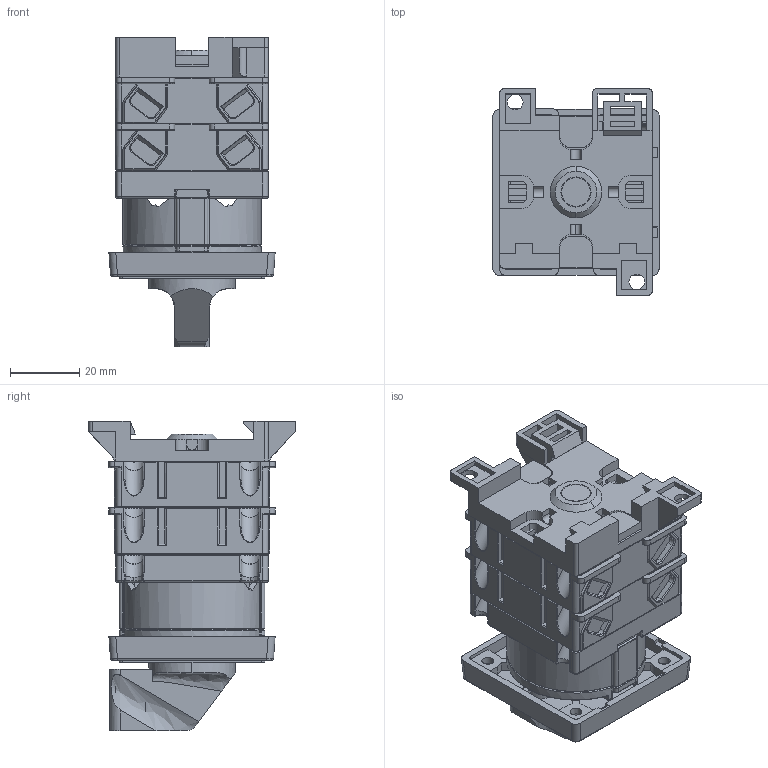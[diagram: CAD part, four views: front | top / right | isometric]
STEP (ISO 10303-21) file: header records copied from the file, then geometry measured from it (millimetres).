
FILE_DESCRIPTION (( 'STEP AP214' ), '1' );
FILE_NAME ('Ïåðåêëþ÷àòåëü 4G10-XXXX-OU-R012,R014,S24 2ê.STEP', '2022-11-25T11:34:43', ( '' ), ( '' ), 'SwSTEP 2.0', 'SolidWorks 2018', '' );
FILE_SCHEMA (( 'AUTOMOTIVE_DESIGN' ));
Length unit declared in the file: millimetre
Products named in the file (1): Ïåðåêëþ÷àòåëü 4G10-XXXX-OU-R012,R014,S24 2ê
Bounding box: 48 x 59.6 x 89.4 mm (x, y, z)
Volume: 108758.4 mm3; surface area: 58635.8 mm2
Topology: 13 solids, 29 shells, 2920 faces, 7563 edges, 4767 vertices
Faces by surface type: plane 1616, cylinder 940, torus 158, cone 105, bspline 55, sphere 46
Entity records: 130413 total; most frequent: CARTESIAN_POINT 27891, ORIENTED_EDGE 15028, DIRECTION 14292, EDGE_CURVE 7514, LINE 4954, VECTOR 4954, VERTEX_POINT 4751, AXIS2_PLACEMENT_3D 4669
